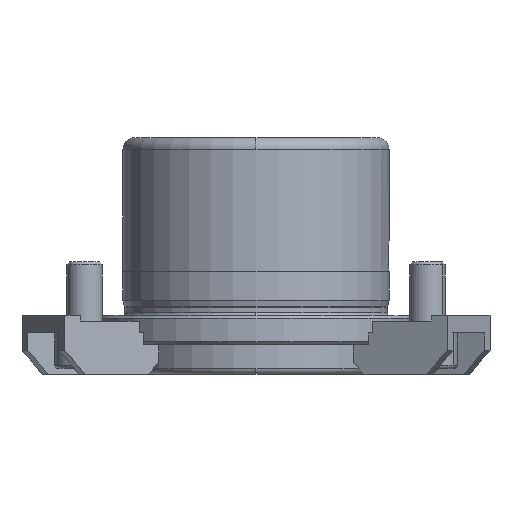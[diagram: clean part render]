
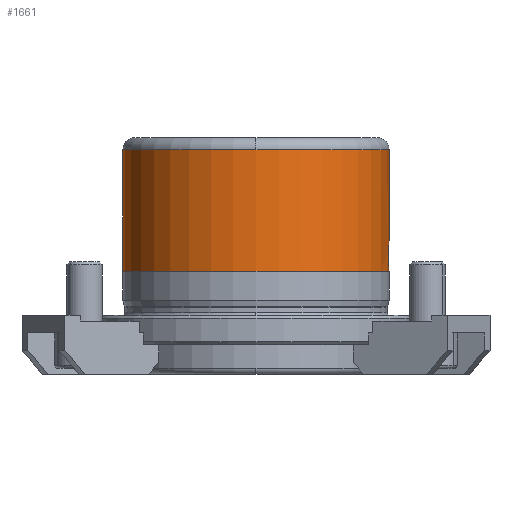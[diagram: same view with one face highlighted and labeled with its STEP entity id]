
A CAD part, front view. The second image highlights one B-rep face of the part: STEP entity #1661.
In plain terms, the highlighted cylindrical face has radius 22.492 mm (diameter 44.984 mm), a partial arc.
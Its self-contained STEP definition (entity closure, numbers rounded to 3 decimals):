
#965=CARTESIAN_POINT('',(-22.492,0.,28.));
#966=VERTEX_POINT('',#965);
#974=CARTESIAN_POINT('',(0.,-22.492,28.0));
#975=VERTEX_POINT('',#974);
#976=CARTESIAN_POINT('',(0.0,0.,28.));
#977=DIRECTION('',(0.0,0.0,-1.0));
#978=DIRECTION('',(1.0,0.0,0.0));
#979=AXIS2_PLACEMENT_3D('',#976,#977,#978);
#980=CIRCLE('',#979,22.492);
#981=EDGE_CURVE('',#975,#966,#980,.T.);
#1336=CARTESIAN_POINT('',(22.492,0.,12.6));
#1337=VERTEX_POINT('',#1336);
#1338=CARTESIAN_POINT('',(22.492,0.,28.));
#1339=VERTEX_POINT('',#1338);
#1340=CARTESIAN_POINT('',(22.492,0.,12.6));
#1341=DIRECTION('',(0.0,0.0,1.0));
#1342=VECTOR('',#1341,15.4);
#1343=LINE('',#1340,#1342);
#1344=EDGE_CURVE('',#1337,#1339,#1343,.T.);
#1346=CARTESIAN_POINT('',(22.492,0.,7.4));
#1347=VERTEX_POINT('',#1346);
#1385=CARTESIAN_POINT('',(-22.492,0.,7.4));
#1386=VERTEX_POINT('',#1385);
#1394=CARTESIAN_POINT('',(-22.492,0.,7.4));
#1395=DIRECTION('',(0.0,0.0,1.0));
#1396=VECTOR('',#1395,20.6);
#1397=LINE('',#1394,#1396);
#1398=EDGE_CURVE('',#1386,#966,#1397,.T.);
#1505=CARTESIAN_POINT('',(22.492,0.,7.4));
#1506=CARTESIAN_POINT('',(22.492,-0.163,7.4));
#1507=CARTESIAN_POINT('',(22.49,-0.332,7.416));
#1508=CARTESIAN_POINT('',(22.483,-0.668,7.482));
#1509=CARTESIAN_POINT('',(22.477,-0.835,7.532));
#1510=CARTESIAN_POINT('',(22.463,-1.156,7.664));
#1511=CARTESIAN_POINT('',(22.454,-1.309,7.747));
#1512=CARTESIAN_POINT('',(22.436,-1.593,7.938));
#1513=CARTESIAN_POINT('',(22.426,-1.723,8.046));
#1514=CARTESIAN_POINT('',(22.407,-1.954,8.277));
#1515=CARTESIAN_POINT('',(22.397,-2.062,8.407));
#1516=CARTESIAN_POINT('',(22.379,-2.253,8.691));
#1517=CARTESIAN_POINT('',(22.371,-2.336,8.844));
#1518=CARTESIAN_POINT('',(22.356,-2.468,9.165));
#1519=CARTESIAN_POINT('',(22.351,-2.518,9.332));
#1520=CARTESIAN_POINT('',(22.343,-2.584,9.668));
#1521=CARTESIAN_POINT('',(22.341,-2.6,9.837));
#1522=CARTESIAN_POINT('',(22.341,-2.6,10.0));
#1523=CARTESIAN_POINT('',(22.341,-2.6,10.163));
#1524=CARTESIAN_POINT('',(22.343,-2.584,10.332));
#1525=CARTESIAN_POINT('',(22.351,-2.518,10.668));
#1526=CARTESIAN_POINT('',(22.356,-2.468,10.835));
#1527=CARTESIAN_POINT('',(22.371,-2.336,11.156));
#1528=CARTESIAN_POINT('',(22.379,-2.253,11.309));
#1529=CARTESIAN_POINT('',(22.397,-2.062,11.593));
#1530=CARTESIAN_POINT('',(22.407,-1.954,11.723));
#1531=CARTESIAN_POINT('',(22.426,-1.723,11.954));
#1532=CARTESIAN_POINT('',(22.436,-1.593,12.062));
#1533=CARTESIAN_POINT('',(22.454,-1.309,12.253));
#1534=CARTESIAN_POINT('',(22.463,-1.156,12.336));
#1535=CARTESIAN_POINT('',(22.477,-0.835,12.468));
#1536=CARTESIAN_POINT('',(22.483,-0.668,12.518));
#1537=CARTESIAN_POINT('',(22.49,-0.332,12.584));
#1538=CARTESIAN_POINT('',(22.492,-0.163,12.6));
#1539=CARTESIAN_POINT('',(22.492,0.,12.6));
#1540=B_SPLINE_CURVE_WITH_KNOTS('',3,(#1505,#1506,#1507,#1508,#1509,#1510,#1511,#1512,#1513,#1514,#1515,#1516,#1517,#1518,#1519,#1520,#1521,#1522,#1523,#1524,#1525,#1526,#1527,#1528,#1529,#1530,#1531,#1532,#1533,#1534,#1535,#1536,#1537,#1538,#1539),.UNSPECIFIED.,.F.,.U.,(4,2,2,2,2,2,2,2,3,2,2,2,2,2,2,2,4),(11.764,12.254,12.744,13.234,13.725,14.215,14.705,15.195,15.685,16.175,16.666,17.156,17.646,18.136,18.626,19.116,19.607),.UNSPECIFIED.);
#1541=EDGE_CURVE('',#1347,#1337,#1540,.T.);
#1636=CARTESIAN_POINT('',(0.0,0.,17.7));
#1637=DIRECTION('',(0.0,0.,-1.0));
#1638=DIRECTION('',(1.0,0.0,0.0));
#1639=AXIS2_PLACEMENT_3D('',#1636,#1637,#1638);
#1640=CYLINDRICAL_SURFACE('',#1639,22.492);
#1641=ORIENTED_EDGE('',*,*,#1344,.T.);
#1642=CARTESIAN_POINT('',(0.0,0.,28.));
#1643=DIRECTION('',(0.0,0.0,-1.0));
#1644=DIRECTION('',(1.0,0.0,0.0));
#1645=AXIS2_PLACEMENT_3D('',#1642,#1643,#1644);
#1646=CIRCLE('',#1645,22.492);
#1647=EDGE_CURVE('',#1339,#975,#1646,.T.);
#1648=ORIENTED_EDGE('',*,*,#1647,.T.);
#1649=ORIENTED_EDGE('',*,*,#981,.T.);
#1650=ORIENTED_EDGE('',*,*,#1398,.F.);
#1651=CARTESIAN_POINT('',(0.0,0.,7.4));
#1652=DIRECTION('',(0.0,0.0,-1.0));
#1653=DIRECTION('',(1.0,0.0,0.0));
#1654=AXIS2_PLACEMENT_3D('',#1651,#1652,#1653);
#1655=CIRCLE('',#1654,22.492);
#1656=EDGE_CURVE('',#1347,#1386,#1655,.T.);
#1657=ORIENTED_EDGE('',*,*,#1656,.F.);
#1658=ORIENTED_EDGE('',*,*,#1541,.T.);
#1659=EDGE_LOOP('',(#1641,#1648,#1649,#1650,#1657,#1658));
#1660=FACE_OUTER_BOUND('',#1659,.T.);
#1661=ADVANCED_FACE('',(#1660),#1640,.T.);
